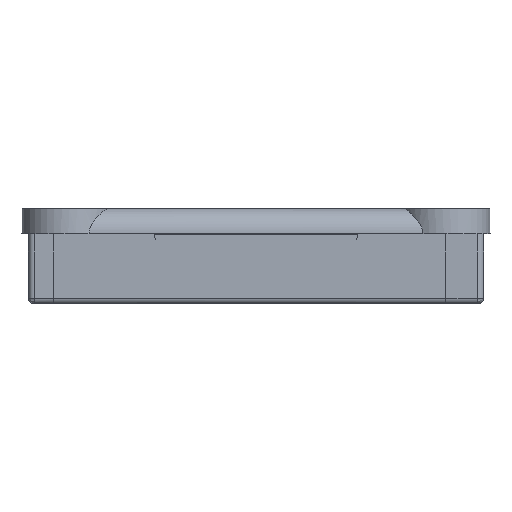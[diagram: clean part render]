
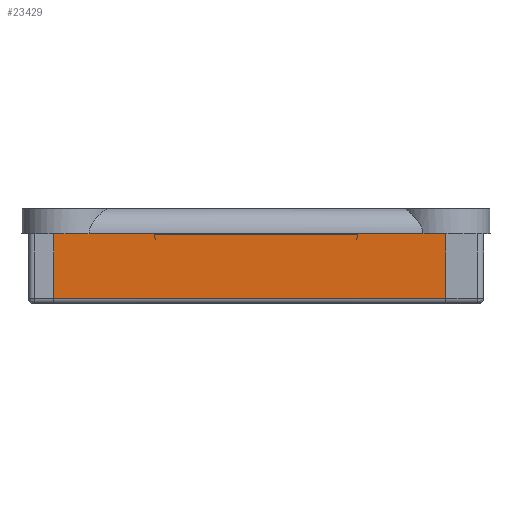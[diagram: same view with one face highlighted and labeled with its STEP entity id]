
A CAD part, left-side view. The second image highlights one B-rep face of the part: STEP entity #23429.
In plain terms, the highlighted planar face has unit normal (-1, 0, 0).
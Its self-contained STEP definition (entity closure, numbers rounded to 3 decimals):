
#716=PLANE('',#23978);
#1928=FACE_OUTER_BOUND('',#3203,.T.);
#3203=EDGE_LOOP('',(#20228,#20229,#20230,#20231,#20232,#20233,#20234,#20235));
#5185=LINE('',#40674,#7096);
#5195=LINE('',#40826,#7106);
#5196=LINE('',#40828,#7107);
#5197=LINE('',#40830,#7108);
#5198=LINE('',#40832,#7109);
#5199=LINE('',#40833,#7110);
#7096=VECTOR('',#26902,10.);
#7106=VECTOR('',#26938,10.);
#7107=VECTOR('',#26939,10.);
#7108=VECTOR('',#26940,10.);
#7109=VECTOR('',#26941,10.);
#7110=VECTOR('',#26942,10.);
#8638=B_SPLINE_CURVE_WITH_KNOTS('',3,(#40728,#40729,#40730,#40731),
 .UNSPECIFIED.,.F.,.F.,(4,4),(1.672,1.678),
 .UNSPECIFIED.);
#8643=B_SPLINE_CURVE_WITH_KNOTS('',3,(#40813,#40814,#40815,#40816),
 .UNSPECIFIED.,.F.,.F.,(4,4),(2.716,2.722),
 .UNSPECIFIED.);
#10885=VERTEX_POINT('',#40672);
#10886=VERTEX_POINT('',#40673);
#10895=VERTEX_POINT('',#40726);
#10900=VERTEX_POINT('',#40772);
#10907=VERTEX_POINT('',#40825);
#10908=VERTEX_POINT('',#40827);
#10909=VERTEX_POINT('',#40829);
#10910=VERTEX_POINT('',#40831);
#14324=EDGE_CURVE('',#10885,#10886,#5185,.T.);
#14335=EDGE_CURVE('',#10895,#10885,#8638,.T.);
#14347=EDGE_CURVE('',#10886,#10900,#8643,.T.);
#14352=EDGE_CURVE('',#10895,#10907,#5195,.T.);
#14353=EDGE_CURVE('',#10908,#10907,#5196,.T.);
#14354=EDGE_CURVE('',#10909,#10908,#5197,.T.);
#14355=EDGE_CURVE('',#10909,#10910,#5198,.F.);
#14356=EDGE_CURVE('',#10910,#10900,#5199,.T.);
#20228=ORIENTED_EDGE('',*,*,#14347,.F.);
#20229=ORIENTED_EDGE('',*,*,#14324,.F.);
#20230=ORIENTED_EDGE('',*,*,#14335,.F.);
#20231=ORIENTED_EDGE('',*,*,#14352,.T.);
#20232=ORIENTED_EDGE('',*,*,#14353,.F.);
#20233=ORIENTED_EDGE('',*,*,#14354,.F.);
#20234=ORIENTED_EDGE('',*,*,#14355,.T.);
#20235=ORIENTED_EDGE('',*,*,#14356,.T.);
#23429=ADVANCED_FACE('',(#1928),#716,.T.);
#23978=AXIS2_PLACEMENT_3D('',#40824,#26936,#26937);
#26902=DIRECTION('',(0.,-1.,0.));
#26936=DIRECTION('center_axis',(-1.,0.,0.));
#26937=DIRECTION('ref_axis',(0.,0.,-1.));
#26938=DIRECTION('',(0.,1.,0.));
#26939=DIRECTION('',(0.,0.,1.));
#26940=DIRECTION('',(0.,1.,0.));
#26941=DIRECTION('',(0.,0.,-1.));
#26942=DIRECTION('',(0.,1.,0.));
#40672=CARTESIAN_POINT('',(-4.482,15.953,22.969));
#40673=CARTESIAN_POINT('',(-4.482,-0.126,22.969));
#40674=CARTESIAN_POINT('',(-4.482,12.362,22.969));
#40726=CARTESIAN_POINT('',(-4.482,16.006,23.));
#40728=CARTESIAN_POINT('Ctrl Pts',(-4.482,16.006,23.));
#40729=CARTESIAN_POINT('Ctrl Pts',(-4.482,15.988,22.99));
#40730=CARTESIAN_POINT('Ctrl Pts',(-4.482,15.97,22.979));
#40731=CARTESIAN_POINT('Ctrl Pts',(-4.482,15.953,22.969));
#40772=CARTESIAN_POINT('',(-4.482,-0.179,23.));
#40813=CARTESIAN_POINT('Ctrl Pts',(-4.482,-0.126,
22.969));
#40814=CARTESIAN_POINT('Ctrl Pts',(-4.482,-0.143,
22.979));
#40815=CARTESIAN_POINT('Ctrl Pts',(-4.482,-0.161,
22.99));
#40816=CARTESIAN_POINT('Ctrl Pts',(-4.482,-0.179,
23.));
#40824=CARTESIAN_POINT('Origin',(-4.482,23.913,25.));
#40825=CARTESIAN_POINT('',(-4.482,23.912,23.));
#40826=CARTESIAN_POINT('',(-4.482,15.913,23.));
#40827=CARTESIAN_POINT('',(-4.482,23.912,17.9));
#40828=CARTESIAN_POINT('',(-4.482,23.912,21.));
#40829=CARTESIAN_POINT('',(-4.482,-7.087,17.9));
#40830=CARTESIAN_POINT('',(-4.482,24.163,17.9));
#40831=CARTESIAN_POINT('',(-4.482,-7.087,23.));
#40832=CARTESIAN_POINT('',(-4.482,-7.087,12.5));
#40833=CARTESIAN_POINT('',(-4.482,15.913,23.));
